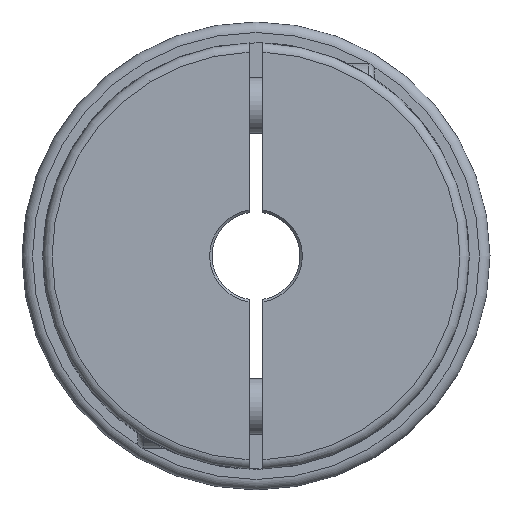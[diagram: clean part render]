
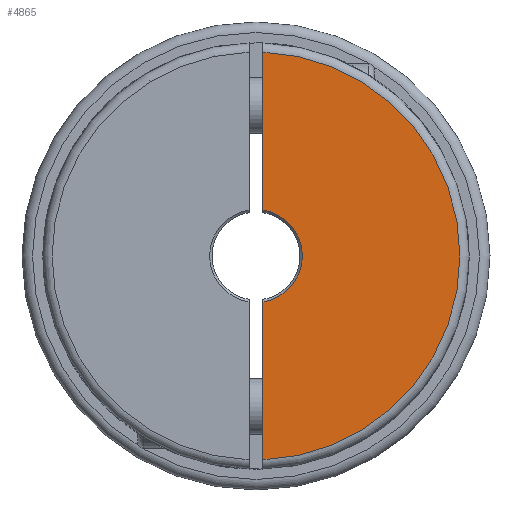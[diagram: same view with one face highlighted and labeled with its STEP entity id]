
A CAD part, left-side view. The second image highlights one B-rep face of the part: STEP entity #4865.
In plain terms, the highlighted planar face has unit normal (-1, 0, 0).
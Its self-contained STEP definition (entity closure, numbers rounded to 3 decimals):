
#154=LINE('',#7848,#306);
#163=LINE('',#7873,#315);
#306=VECTOR('',#6158,1000.);
#315=VECTOR('',#6171,1000.);
#496=PLANE('',#5294);
#1181=ORIENTED_EDGE('',*,*,#1697,.F.);
#1182=ORIENTED_EDGE('',*,*,#1624,.F.);
#1183=ORIENTED_EDGE('',*,*,#1686,.T.);
#1184=ORIENTED_EDGE('',*,*,#1710,.T.);
#1624=EDGE_CURVE('',#1981,#1983,#2235,.T.);
#1686=EDGE_CURVE('',#1981,#2032,#154,.T.);
#1697=EDGE_CURVE('',#1983,#2036,#163,.T.);
#1710=EDGE_CURVE('',#2032,#2036,#2276,.T.);
#1981=VERTEX_POINT('',#7410);
#1983=VERTEX_POINT('',#7413);
#2032=VERTEX_POINT('',#7849);
#2036=VERTEX_POINT('',#7874);
#2235=CIRCLE('',#5212,10.);
#2276=CIRCLE('',#5282,44.);
#2594=EDGE_LOOP('',(#1181,#1182,#1183,#1184));
#2952=FACE_BOUND('',#2594,.T.);
#4865=ADVANCED_FACE('',(#2952),#496,.T.);
#5212=AXIS2_PLACEMENT_3D('',#7412,#6032,#6033);
#5282=AXIS2_PLACEMENT_3D('',#7907,#6196,#6197);
#5294=AXIS2_PLACEMENT_3D('',#7919,#6220,#6221);
#6032=DIRECTION('',(-1.,0.,0.));
#6033=DIRECTION('',(0.,0.,1.));
#6158=DIRECTION('',(0.,0.,-1.));
#6171=DIRECTION('',(0.,0.,1.));
#6196=DIRECTION('',(-1.,0.,0.));
#6197=DIRECTION('',(0.,0.,1.));
#6220=DIRECTION('',(-1.,0.,0.));
#6221=DIRECTION('',(0.,0.,1.));
#7410=CARTESIAN_POINT('',(-58.178,-1.5,-9.887));
#7412=CARTESIAN_POINT('',(-58.178,0.,0.));
#7413=CARTESIAN_POINT('',(-58.178,-1.5,9.887));
#7848=CARTESIAN_POINT('',(-58.178,-1.5,46.));
#7849=CARTESIAN_POINT('',(-58.178,-1.5,-43.974));
#7873=CARTESIAN_POINT('',(-58.178,-1.5,46.));
#7874=CARTESIAN_POINT('',(-58.178,-1.5,43.974));
#7907=CARTESIAN_POINT('',(-58.178,0.,0.));
#7919=CARTESIAN_POINT('',(-58.178,0.,46.));
